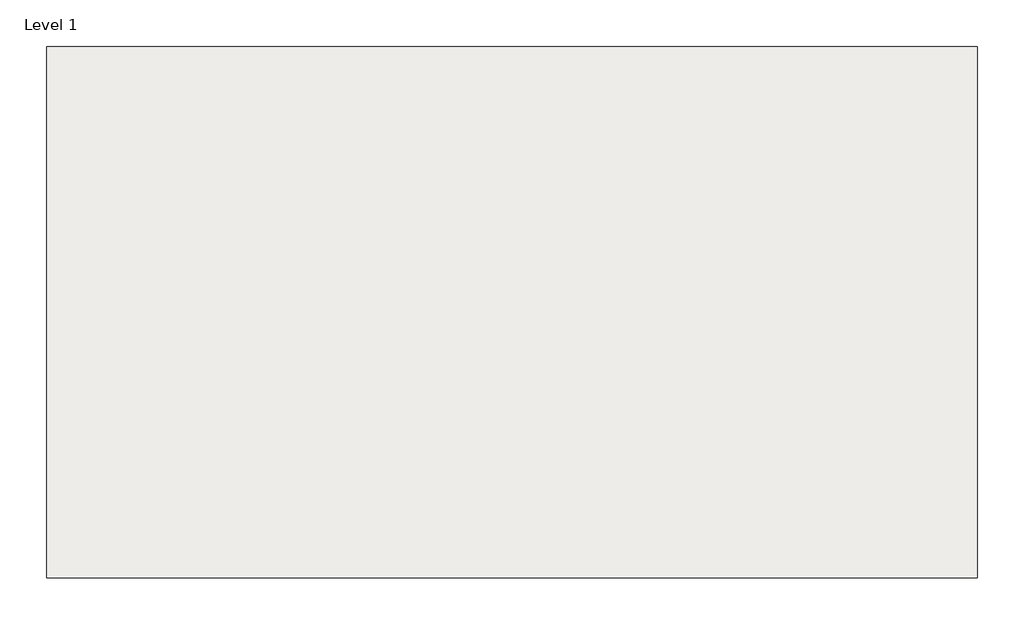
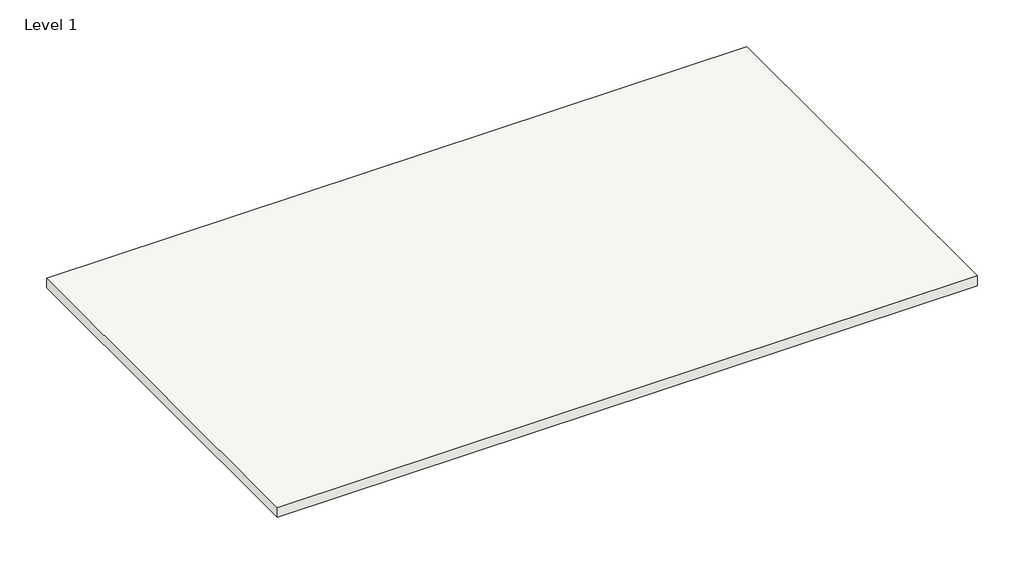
# One storey, incomplete: 1 slab.
"""IFC4 building model written with IfcOpenShell, lengths in millimetres."""

from ifc_helpers import new_model, si_unit, frame, origin, place, context, project, spatial, polyline, outline, extrude, element, save

model = new_model("IFC4")

# Units and contexts
model_context = context("Model", 3, world=origin())
ifc_project = project(units=[si_unit("LENGTHUNIT", "METRE", prefix="MILLI")], contexts=[model_context])

# Site, building, storey
site = spatial("IfcSite", under=ifc_project)
building = spatial("IfcBuilding", under=site)
storey = spatial("IfcBuildingStorey", under=building, Name="Level 1", Elevation=0.0)

# Slab
placement = place(None, origin())
element("IfcSlab", 1, ObjectType="Generic - 12\"", at=placement, inside=storey, context=model_context, shape_type="SweptSolid", body=[
    extrude(outline(polyline([(2151.5757994, 14637.2598675), (2151.5757994, 2637.2598675), (-18848.4242006, 2637.2598675), (-18848.4242006, 14637.2598675), (2151.5757994, 14637.2598675)])), frame((0.0, 0.0, -304.8), z_axis=(0.0, 0.0, 1.0), x_axis=(1.0, 0.0, 0.0)), (0.0, 0.0, 1.0), 304.8),
])

save(model, "model.ifc")
